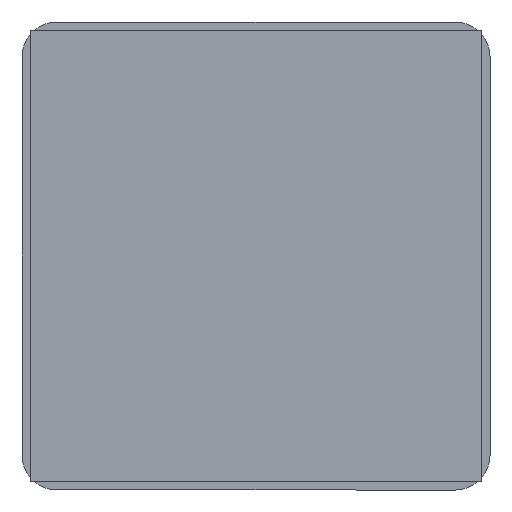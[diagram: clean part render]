
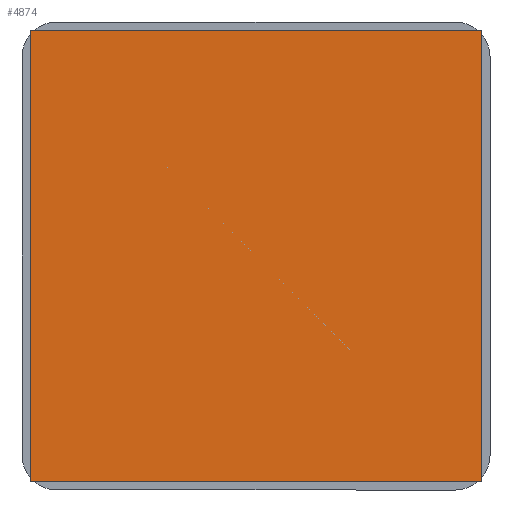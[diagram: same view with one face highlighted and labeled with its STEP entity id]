
A CAD part, front view. The second image highlights one B-rep face of the part: STEP entity #4874.
In plain terms, the highlighted planar face has unit normal (0, -1, 0).
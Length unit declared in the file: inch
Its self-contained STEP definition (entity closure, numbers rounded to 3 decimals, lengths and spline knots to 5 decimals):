
#798 = CARTESIAN_POINT ( 'NONE',  ( -0.84646, -0.005, -0.84646 ) ) ;
#1058 = ORIENTED_EDGE ( 'NONE', *, *, #6864, .F. ) ;
#1152 = DIRECTION ( 'NONE',  ( 0., 0., 1. ) ) ;
#1743 = CARTESIAN_POINT ( 'NONE',  ( -0.84646, -0.005, -0.84646 ) ) ;
#2022 = CARTESIAN_POINT ( 'NONE',  ( -0.84646, -0.005, -0.84646 ) ) ;
#2996 = DIRECTION ( 'NONE',  ( 1., 0., 0. ) ) ;
#3469 = CARTESIAN_POINT ( 'NONE',  ( -0.84646, -0.005, 0.84646 ) ) ;
#3550 = EDGE_LOOP ( 'NONE', ( #3554, #5652, #8738, #1058 ) ) ;
#3554 = ORIENTED_EDGE ( 'NONE', *, *, #8838, .F. ) ;
#3677 = DIRECTION ( 'NONE',  ( 0., 0., 1. ) ) ;
#4182 = VECTOR ( 'NONE', #1152, 39.37008 ) ;
#4505 = VECTOR ( 'NONE', #8773, 39.37008 ) ;
#4580 = LINE ( 'NONE', #9267, #4824 ) ;
#4824 = VECTOR ( 'NONE', #2996, 39.37008 ) ;
#4874 = ADVANCED_FACE ( 'NONE', ( #6554 ), #6858, .F. ) ;
#4910 = CARTESIAN_POINT ( 'NONE',  ( 0.84646, -0.005, -0.84646 ) ) ;
#5048 = VERTEX_POINT ( 'NONE', #1743 ) ;
#5328 = LINE ( 'NONE', #798, #4505 ) ;
#5646 = EDGE_CURVE ( 'NONE', #8735, #5048, #5328, .T. ) ;
#5652 = ORIENTED_EDGE ( 'NONE', *, *, #5646, .F. ) ;
#5656 = AXIS2_PLACEMENT_3D ( 'NONE', #7685, #9991, #3677 ) ;
#5708 = VECTOR ( 'NONE', #6440, 39.37008 ) ;
#6440 = DIRECTION ( 'NONE',  ( 0., 0., -1. ) ) ;
#6554 = FACE_OUTER_BOUND ( 'NONE', #3550, .T. ) ;
#6858 = PLANE ( 'NONE',  #5656 ) ;
#6864 = EDGE_CURVE ( 'NONE', #9465, #7080, #4580, .T. ) ;
#7080 = VERTEX_POINT ( 'NONE', #7925 ) ;
#7685 = CARTESIAN_POINT ( 'NONE',  ( -0.84646, -0.005, 0.84646 ) ) ;
#7925 = CARTESIAN_POINT ( 'NONE',  ( 0.84646, -0.005, 0.84646 ) ) ;
#8735 = VERTEX_POINT ( 'NONE', #4910 ) ;
#8738 = ORIENTED_EDGE ( 'NONE', *, *, #9089, .F. ) ;
#8773 = DIRECTION ( 'NONE',  ( -1., 0., 0. ) ) ;
#8838 = EDGE_CURVE ( 'NONE', #5048, #9465, #9236, .T. ) ;
#9089 = EDGE_CURVE ( 'NONE', #7080, #8735, #9635, .T. ) ;
#9236 = LINE ( 'NONE', #2022, #4182 ) ;
#9267 = CARTESIAN_POINT ( 'NONE',  ( -0.84646, -0.005, 0.84646 ) ) ;
#9465 = VERTEX_POINT ( 'NONE', #3469 ) ;
#9635 = LINE ( 'NONE', #9733, #5708 ) ;
#9733 = CARTESIAN_POINT ( 'NONE',  ( 0.84646, -0.005, -0.84646 ) ) ;
#9991 = DIRECTION ( 'NONE',  ( 0., 1., 0. ) ) ;
